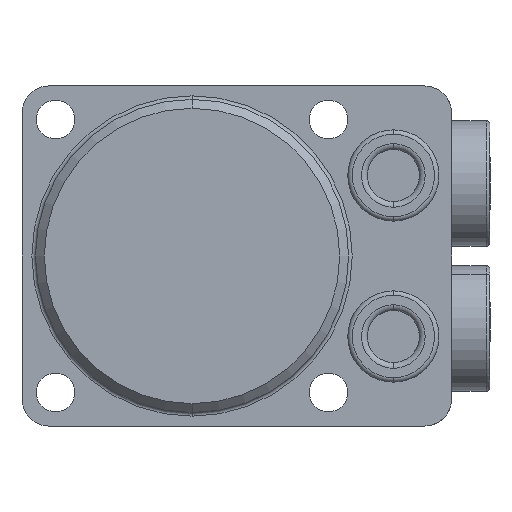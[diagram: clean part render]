
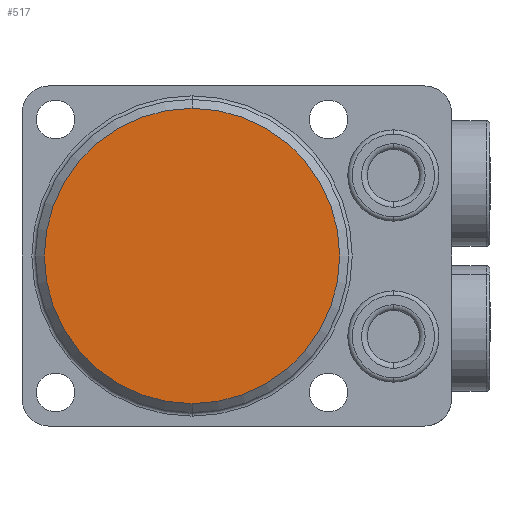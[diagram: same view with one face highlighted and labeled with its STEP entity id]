
A CAD part, front view. The second image highlights one B-rep face of the part: STEP entity #517.
In plain terms, the highlighted planar face has unit normal (0, -1, 0).
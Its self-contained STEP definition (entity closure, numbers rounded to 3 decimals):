
#234=PLANE('',#3276);
#517=ADVANCED_FACE('',(#725),#234,.F.);
#725=FACE_OUTER_BOUND('',#913,.T.);
#913=EDGE_LOOP('',(#1907,#1908));
#1907=ORIENTED_EDGE('',*,*,#2740,.T.);
#1908=ORIENTED_EDGE('',*,*,#2682,.T.);
#2331=VERTEX_POINT('',#5111);
#2332=VERTEX_POINT('',#5112);
#2682=EDGE_CURVE('',#2331,#2332,#2931,.T.);
#2740=EDGE_CURVE('',#2332,#2331,#2953,.T.);
#2931=CIRCLE('',#3240,16.5);
#2953=CIRCLE('',#3275,16.5);
#3240=AXIS2_PLACEMENT_3D('',#5110,#4000,#4001);
#3275=AXIS2_PLACEMENT_3D('',#5244,#4101,#4102);
#3276=AXIS2_PLACEMENT_3D('',#5245,#4103,#4104);
#4000=DIRECTION('',(0.,-1.,0.));
#4001=DIRECTION('',(0.,0.,1.));
#4101=DIRECTION('',(0.,-1.,0.));
#4102=DIRECTION('',(0.,0.,1.));
#4103=DIRECTION('',(0.,1.,0.));
#4104=DIRECTION('',(0.,0.,1.));
#5110=CARTESIAN_POINT('',(0.,0.,0.));
#5111=CARTESIAN_POINT('',(0.,0.,-16.5));
#5112=CARTESIAN_POINT('',(0.,0.,16.5));
#5244=CARTESIAN_POINT('',(0.,0.,0.));
#5245=CARTESIAN_POINT('',(-19.,0.,19.));
